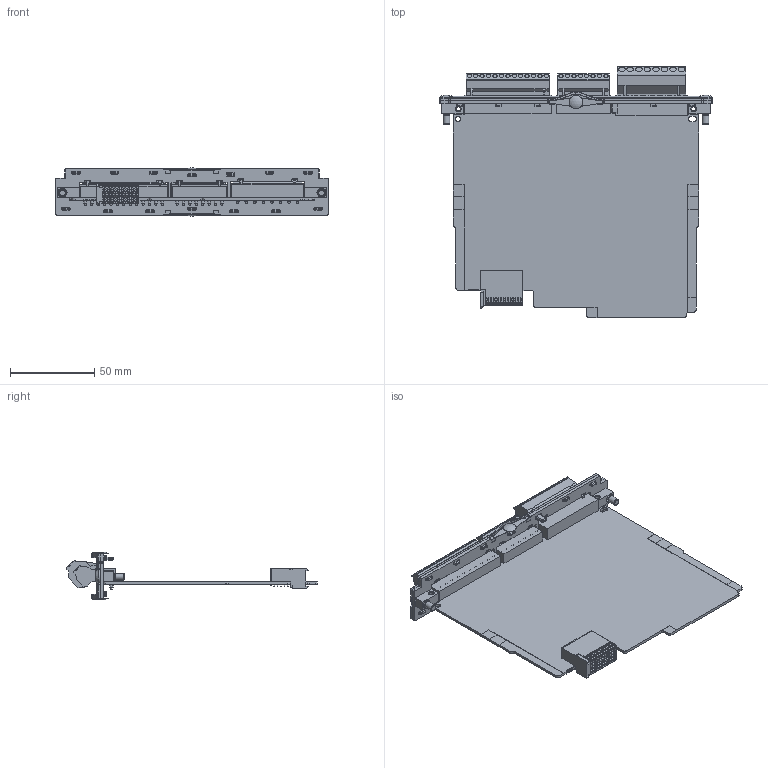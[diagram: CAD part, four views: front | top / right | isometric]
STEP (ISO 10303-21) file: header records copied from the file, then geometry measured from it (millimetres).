
FILE_DESCRIPTION(/* description */ (''),/* implementation_level */ '2;1');
FILE_NAME(/* name */ 'IOM3.2_3D CAD_20250228.stp',/* time_stamp */ '2025-02-28T10:08:48+01:00',/* author */ ('DSP'),/* organization */ (''),/* preprocessor_version */ 'ST-DEVELOPER v19.2',/* originating_system */ 'Autodesk Inventor 2023',/* authorisation */ '');
FILE_SCHEMA (('AUTOMOTIVE_DESIGN { 1 0 10303 214 3 1 1 }'));
Products named in the file (1): IOM3.2_3D CAD_SMPL_20250228
Bounding box: 162 x 149.2 x 28.71 mm (x, y, z)
Volume: 74576.1 mm3; surface area: 62320.3 mm2
Topology: 1 solids, 1 shells, 3160 faces, 7964 edges, 4918 vertices
Faces by surface type: plane 1962, cylinder 855, bspline 179, sphere 89, cone 51, torus 24
Full cylindrical faces by diameter (mm): 0.8 x8, 1.6 x8, 1.7 x21, 2.459 x2, 2.5 x2, 2.8 x21, 3 x2, 3.05 x1, 3.242 x2, 4 x10, 4.4 x2, 5.5 x2, 8 x2
Entity records: 101450 total; most frequent: CARTESIAN_POINT 22241, ORIENTED_EDGE 15764, DIRECTION 15700, EDGE_CURVE 7882, LINE 5578, VECTOR 5578, AXIS2_PLACEMENT_3D 5061, VERTEX_POINT 4918
